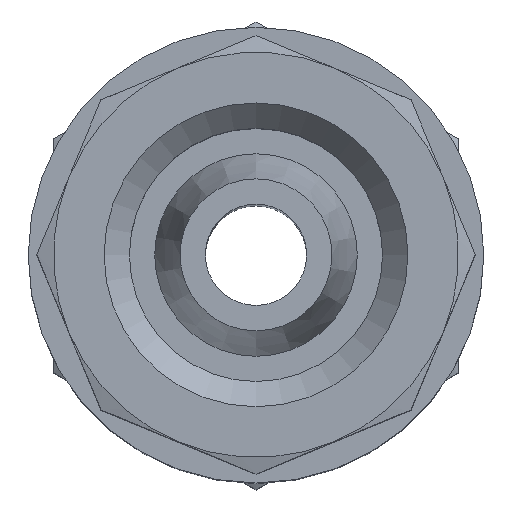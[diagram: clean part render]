
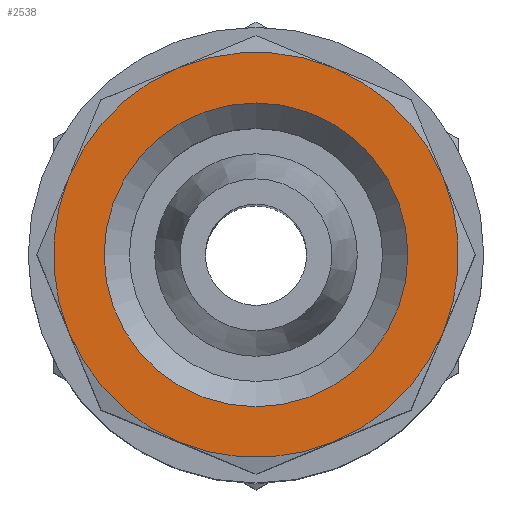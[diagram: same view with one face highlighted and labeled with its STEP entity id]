
A CAD part, top view. The second image highlights one B-rep face of the part: STEP entity #2538.
In plain terms, the highlighted planar face has unit normal (0, 0, 1) as drawn and (0, 1, 0) by its records, which use the part's own axes.
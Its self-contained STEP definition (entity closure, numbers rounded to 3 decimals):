
#1302=PLANE('',#2430);
#1445=ORIENTED_EDGE('',*,*,#1732,.F.);
#1446=ORIENTED_EDGE('',*,*,#1733,.F.);
#1447=ORIENTED_EDGE('',*,*,#1734,.F.);
#1448=ORIENTED_EDGE('',*,*,#1735,.F.);
#1449=ORIENTED_EDGE('',*,*,#1736,.F.);
#1450=ORIENTED_EDGE('',*,*,#1737,.F.);
#1451=ORIENTED_EDGE('',*,*,#1738,.F.);
#1452=ORIENTED_EDGE('',*,*,#1739,.F.);
#1453=ORIENTED_EDGE('',*,*,#1731,.T.);
#1573=CIRCLE('',#2429,3.);
#1574=CIRCLE('',#2431,4.);
#1575=CIRCLE('',#2432,4.);
#1576=CIRCLE('',#2433,4.);
#1577=CIRCLE('',#2434,4.);
#1578=CIRCLE('',#2435,4.);
#1579=CIRCLE('',#2436,4.);
#1580=CIRCLE('',#2437,4.);
#1581=CIRCLE('',#2438,4.);
#1635=VERTEX_POINT('',#2728);
#1636=VERTEX_POINT('',#2731);
#1637=VERTEX_POINT('',#2732);
#1638=VERTEX_POINT('',#2734);
#1639=VERTEX_POINT('',#2736);
#1640=VERTEX_POINT('',#2738);
#1641=VERTEX_POINT('',#2740);
#1642=VERTEX_POINT('',#2742);
#1643=VERTEX_POINT('',#2744);
#1731=EDGE_CURVE('',#1635,#1635,#1573,.T.);
#1732=EDGE_CURVE('',#1636,#1637,#1574,.T.);
#1733=EDGE_CURVE('',#1638,#1636,#1575,.T.);
#1734=EDGE_CURVE('',#1639,#1638,#1576,.T.);
#1735=EDGE_CURVE('',#1640,#1639,#1577,.T.);
#1736=EDGE_CURVE('',#1641,#1640,#1578,.T.);
#1737=EDGE_CURVE('',#1642,#1641,#1579,.T.);
#1738=EDGE_CURVE('',#1643,#1642,#1580,.T.);
#1739=EDGE_CURVE('',#1637,#1643,#1581,.T.);
#1845=EDGE_LOOP('',(#1445,#1446,#1447,#1448,#1449,#1450,#1451,#1452));
#1846=EDGE_LOOP('',(#1453));
#1943=FACE_BOUND('',#1845,.T.);
#1944=FACE_BOUND('',#1846,.T.);
#2195=DIRECTION('',(0.,-1.,0.));
#2196=DIRECTION('',(0.,0.,-3.));
#2197=DIRECTION('',(0.,1.,0.));
#2198=DIRECTION('',(1.,0.,0.));
#2199=DIRECTION('',(0.,-1.,0.));
#2200=DIRECTION('',(0.,0.,4.));
#2201=DIRECTION('',(0.,-1.,0.));
#2202=DIRECTION('',(0.,0.,4.));
#2203=DIRECTION('',(0.,-1.,0.));
#2204=DIRECTION('',(0.,0.,4.));
#2205=DIRECTION('',(0.,-1.,0.));
#2206=DIRECTION('',(0.,0.,4.));
#2207=DIRECTION('',(0.,-1.,0.));
#2208=DIRECTION('',(0.,0.,4.));
#2209=DIRECTION('',(0.,-1.,0.));
#2210=DIRECTION('',(0.,0.,4.));
#2211=DIRECTION('',(0.,-1.,0.));
#2212=DIRECTION('',(0.,0.,4.));
#2213=DIRECTION('',(0.,-1.,0.));
#2214=DIRECTION('',(0.,0.,4.));
#2429=AXIS2_PLACEMENT_3D('',#2729,#2195,#2196);
#2430=AXIS2_PLACEMENT_3D('',#2730,#2197,#2198);
#2431=AXIS2_PLACEMENT_3D('',#2733,#2199,#2200);
#2432=AXIS2_PLACEMENT_3D('',#2735,#2201,#2202);
#2433=AXIS2_PLACEMENT_3D('',#2737,#2203,#2204);
#2434=AXIS2_PLACEMENT_3D('',#2739,#2205,#2206);
#2435=AXIS2_PLACEMENT_3D('',#2741,#2207,#2208);
#2436=AXIS2_PLACEMENT_3D('',#2743,#2209,#2210);
#2437=AXIS2_PLACEMENT_3D('',#2745,#2211,#2212);
#2438=AXIS2_PLACEMENT_3D('',#2746,#2213,#2214);
#2538=ADVANCED_FACE('',(#1943,#1944),#1302,.T.);
#2728=CARTESIAN_POINT('',(26.989,25.595,-3.));
#2729=CARTESIAN_POINT('',(26.989,25.595,0.));
#2730=CARTESIAN_POINT('',(28.52,25.595,3.696));
#2731=CARTESIAN_POINT('',(23.293,25.595,-1.531));
#2732=CARTESIAN_POINT('',(25.458,25.595,-3.696));
#2733=CARTESIAN_POINT('',(26.989,25.595,0.));
#2734=CARTESIAN_POINT('',(23.293,25.595,1.531));
#2735=CARTESIAN_POINT('',(26.989,25.595,0.));
#2736=CARTESIAN_POINT('',(25.458,25.595,3.696));
#2737=CARTESIAN_POINT('',(26.989,25.595,0.));
#2738=CARTESIAN_POINT('',(28.52,25.595,3.696));
#2739=CARTESIAN_POINT('',(26.989,25.595,0.));
#2740=CARTESIAN_POINT('',(30.684,25.595,1.531));
#2741=CARTESIAN_POINT('',(26.989,25.595,0.));
#2742=CARTESIAN_POINT('',(30.684,25.595,-1.531));
#2743=CARTESIAN_POINT('',(26.989,25.595,0.));
#2744=CARTESIAN_POINT('',(28.52,25.595,-3.696));
#2745=CARTESIAN_POINT('',(26.989,25.595,0.));
#2746=CARTESIAN_POINT('',(26.989,25.595,0.));
